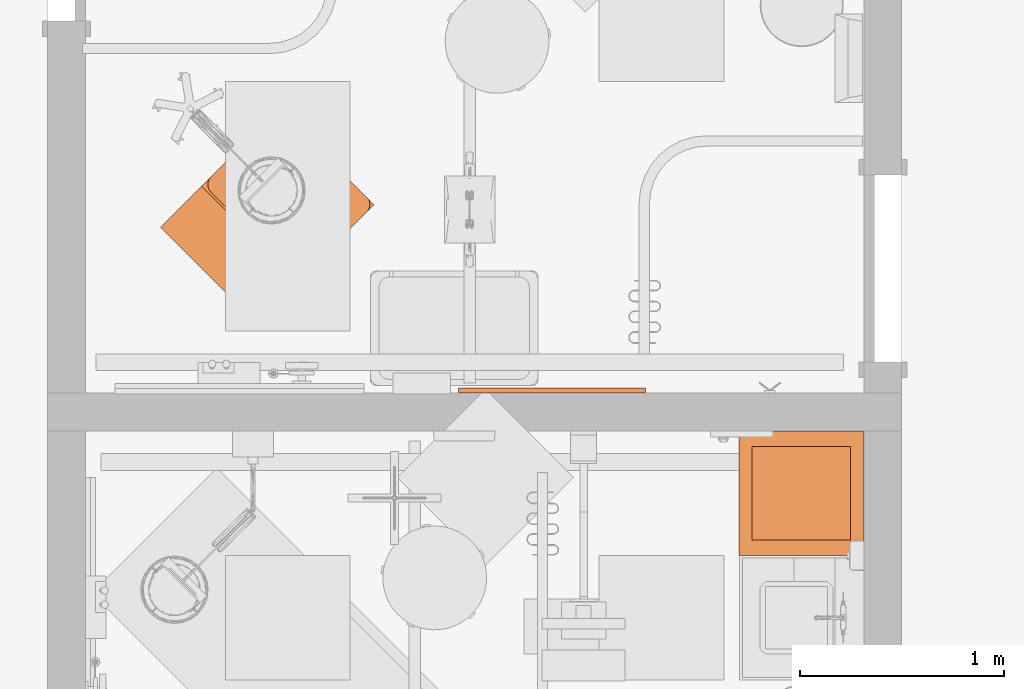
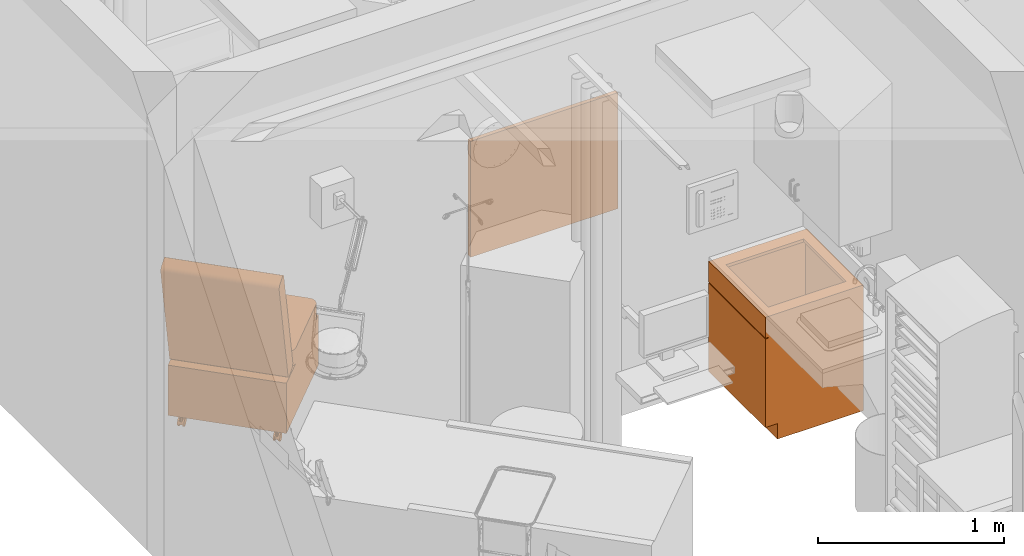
# One storey, part 13 of 142: 3 proxies.
"""IFC2X3 building model written with IfcOpenShell, lengths in feet."""

from ifc_helpers import new_model, entity, si_unit, converted_unit, derived_unit, direction, frame, frame_2d, origin, origin_2d_with_axis, place, context, subcontext, project, spatial, polyline, circle_curve, parameter, trimmed, segment, composite_curve, rectangle, circle, outline, extrude, source, transform, mapped, type_object, type_shapes, element, save


model = new_model("IFC2X3")

# Units and contexts
model_context = context("Model", 3, precision=0.0001, world=origin(), true_north=direction((6.12303176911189e-17, 1.0)))
body_context = subcontext(model_context, "Body", "Model", "MODEL_VIEW")
ifc_project = project(units=[converted_unit("LENGTHUNIT", "FOOT", entity("IfcRatioMeasure", 0.3048), si_unit("LENGTHUNIT", "METRE"), dimensions=[1, 0, 0, 0, 0, 0, 0]), converted_unit("AREAUNIT", "SQUARE FOOT", entity("IfcRatioMeasure", 0.09290304), si_unit("AREAUNIT", "SQUARE_METRE"), dimensions=[2, 0, 0, 0, 0, 0, 0]), converted_unit("VOLUMEUNIT", "CUBIC FOOT", entity("IfcRatioMeasure", 0.028316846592), si_unit("VOLUMEUNIT", "CUBIC_METRE"), dimensions=[3, 0, 0, 0, 0, 0, 0]), converted_unit("PLANEANGLEUNIT", "DEGREE", entity("IfcRatioMeasure", 0.0174532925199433), si_unit("PLANEANGLEUNIT", "RADIAN"), dimensions=[0, 0, 0, 0, 0, 0, 0]), si_unit("MASSUNIT", "GRAM", prefix="KILO"), derived_unit("MASSDENSITYUNIT", [(si_unit("MASSUNIT", "GRAM", prefix="KILO"), 1), (si_unit("LENGTHUNIT", "METRE"), -3)]), si_unit("TIMEUNIT", "SECOND"), si_unit("FREQUENCYUNIT", "HERTZ"), si_unit("THERMODYNAMICTEMPERATUREUNIT", "DEGREE_CELSIUS"), derived_unit("THERMALTRANSMITTANCEUNIT", [(si_unit("MASSUNIT", "GRAM", prefix="KILO"), 1), (si_unit("THERMODYNAMICTEMPERATUREUNIT", "KELVIN"), -1), (si_unit("TIMEUNIT", "SECOND"), -3)]), derived_unit("VOLUMETRICFLOWRATEUNIT", [(si_unit("LENGTHUNIT", "METRE"), 3), (si_unit("TIMEUNIT", "SECOND"), -1)]), si_unit("ELECTRICCURRENTUNIT", "AMPERE"), si_unit("ELECTRICVOLTAGEUNIT", "VOLT"), si_unit("POWERUNIT", "WATT"), si_unit("FORCEUNIT", "NEWTON"), si_unit("ILLUMINANCEUNIT", "LUX"), si_unit("LUMINOUSFLUXUNIT", "LUMEN"), si_unit("LUMINOUSINTENSITYUNIT", "CANDELA"), derived_unit("USERDEFINED", [(si_unit("MASSUNIT", "GRAM", prefix="KILO"), -1), (si_unit("LENGTHUNIT", "METRE"), -2), (si_unit("TIMEUNIT", "SECOND"), 3), (si_unit("LUMINOUSFLUXUNIT", "LUMEN"), 1)]), derived_unit("LINEARVELOCITYUNIT", [(si_unit("LENGTHUNIT", "METRE"), 1), (si_unit("TIMEUNIT", "SECOND"), -1)]), si_unit("PRESSUREUNIT", "PASCAL"), derived_unit("USERDEFINED", [(si_unit("LENGTHUNIT", "METRE"), -2), (si_unit("MASSUNIT", "GRAM", prefix="KILO"), 1), (si_unit("TIMEUNIT", "SECOND"), -2)])], contexts=[model_context])

# Site, building, storey, space
site_placement = place(None, origin())
site = spatial("IfcSite", under=ifc_project, at=site_placement, Name="Default", CompositionType="ELEMENT")
building_placement = place(site_placement, origin())
building = spatial("IfcBuilding", under=site, at=building_placement, Name="OUTPATIENT / PACT CLINIC (Ch. 265)", CompositionType="ELEMENT")
storey_placement = place(building_placement, origin())
storey = spatial("IfcBuildingStorey", under=building, at=storey_placement, Name="LEVEL 1", CompositionType="ELEMENT", Elevation=0.0)
space_1_placement = place(storey_placement, origin())
space_1 = spatial("IfcSpace", under=storey, at=space_1_placement, Name="EXPA01", CompositionType="ELEMENT", InteriorOrExteriorSpace="INTERNAL")

# Proxies
building_element_proxy_type_1 = type_object("IfcBuildingElementProxyType", Name="F3025 - Board, Bulletin, Wood Framed", PredefinedType="NOTDEFINED")
shared_shape_1 = source(origin(), body_context, "Body", "SweptSolid", [
    extrude(rectangle(XDim=0.0416666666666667, YDim=2.74999999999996, at=origin_2d_with_axis()), frame((0.0, -0.020833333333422, 0.124999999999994), z_axis=(0.0, 0.0, 1.0), x_axis=(0.0, 1.0, 0.0)), (0.0, 0.0, 1.0), 2.25000000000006),
    extrude(outline(polyline([(-1.49999999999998, -1.25), (1.49999999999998, -1.25), (1.49999999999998, 1.25), (-1.49999999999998, 1.25), (-1.49999999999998, -1.25)]), holes=[polyline([(-1.37499999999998, -1.125), (-1.37499999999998, 1.12500000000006), (1.37499999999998, 1.12500000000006), (1.37499999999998, -1.125), (-1.37499999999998, -1.125)])]), frame((0.0, -0.0833333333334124, 1.25), z_axis=(0.0, 1.0, 0.0), x_axis=(-1.0, 0.0, 0.0)), (0.0, 0.0, 1.0), 0.0833333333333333),
])
type_shapes(building_element_proxy_type_1, [shared_shape_1])
proxy_1_placement = place(space_1_placement, frame((398.452893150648, -931.441351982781, 4.0), z_axis=(0.0, 0.0, 1.0), x_axis=(-1.0, 0.0, 0.0)))
element("IfcBuildingElementProxy", 1, at=proxy_1_placement, inside=space_1, type_object=building_element_proxy_type_1, Name="F3025 - Board, Bulletin, Wood Framed1:F3025 - Board, Bulletin, Wood Framed", ObjectType="F3025 - Board, Bulletin, Wood Framed", context=body_context, shape_type="MappedRepresentation", body=[
    mapped(shared_shape_1, transform((0.0, 0.0, 0.0), scale=1.0)),
])
building_element_proxy_type_2 = type_object("IfcBuildingElementProxyType", Name="Exam/Treatment Table with Cabinet", PredefinedType="NOTDEFINED")
shared_shape_2 = source(origin(), body_context, "Body", "SweptSolid", [
    extrude(circle(Radius=0.0833333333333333, at=frame_2d((0.0, -1.38777878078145e-16), x_axis=(1.0, 0.0))), frame((-0.843750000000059, 0.432291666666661, 0.0833333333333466), z_axis=(1.0, 0.0, 0.0), x_axis=(0.0, 1.0, 0.0)), (0.0, 0.0, 1.0), 0.0312500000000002),
    extrude(circle(Radius=0.0260416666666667, at=frame_2d((0.0, -5.55111512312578e-17), x_axis=(1.0, 0.0))), frame((-0.87500000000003, 0.463541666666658, 0.0801325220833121), z_axis=(0.0, 0.0, 1.0), x_axis=(-1.0, 0.0, 0.0)), (0.0, 0.0, 1.0), 0.211534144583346),
    extrude(circle(Radius=0.0625, at=frame_2d((0.0, -2.77555756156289e-16), x_axis=(1.0, 0.0))), frame((-0.90625000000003, 0.432291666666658, 0.0833333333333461), z_axis=(1.0, 0.0, 0.0), x_axis=(0.0, -1.0, 0.0)), (0.0, 0.0, 1.0), 0.0625),
    extrude(circle(Radius=0.0833333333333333, at=frame_2d((0.0, -1.38777878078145e-16), x_axis=(1.0, 0.0))), frame((-0.93750000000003, 0.432291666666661, 0.0833333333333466), z_axis=(1.0, 0.0, 0.0), x_axis=(0.0, 1.0, 0.0)), (0.0, 0.0, 1.0), 0.0312500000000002),
    extrude(circle(Radius=0.0833333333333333, at=frame_2d((0.0, -3.7470027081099e-16), x_axis=(1.0, 0.0))), frame((0.81250000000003, 0.432291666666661, 0.083333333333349), z_axis=(1.0, 0.0, 0.0), x_axis=(0.0, 1.0, 0.0)), (0.0, 0.0, 1.0), 0.0312500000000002),
    extrude(circle(Radius=0.0260416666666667, at=frame_2d((0.0, -5.55111512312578e-17), x_axis=(1.0, 0.0))), frame((0.875000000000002, 0.463541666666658, 0.0801325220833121)), (0.0, 0.0, 1.0), 0.211534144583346),
    extrude(circle(Radius=0.0625, at=frame_2d((0.0, -1.11022302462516e-16), x_axis=(1.0, 0.0))), frame((0.843750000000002, 0.432291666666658, 0.0833333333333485), z_axis=(1.0, 0.0, 0.0), x_axis=(0.0, -1.0, 0.0)), (0.0, 0.0, 1.0), 0.0625),
    extrude(circle(Radius=0.0833333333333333, at=frame_2d((0.0, -3.7470027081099e-16), x_axis=(1.0, 0.0))), frame((0.906250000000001, 0.432291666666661, 0.083333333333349), z_axis=(1.0, 0.0, 0.0), x_axis=(0.0, 1.0, 0.0)), (0.0, 0.0, 1.0), 0.0312500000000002),
    extrude(circle(Radius=0.0833333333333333, at=frame_2d((0.0, -1.38777878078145e-16), x_axis=(1.0, 0.0))), frame((-0.843750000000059, -1.41145833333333, 0.0833333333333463), z_axis=(1.0, 0.0, 0.0), x_axis=(0.0, -1.0, 0.0)), (0.0, 0.0, 1.0), 0.0312500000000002),
    extrude(circle(Radius=0.0260416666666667, at=origin_2d_with_axis()), frame((-0.87500000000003, -1.44270833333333, 0.0801325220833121), z_axis=(0.0, 0.0, 1.0), x_axis=(-1.0, 0.0, 0.0)), (0.0, 0.0, 1.0), 0.211534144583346),
    extrude(circle(Radius=0.0625, at=frame_2d((0.0, -2.77555756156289e-16), x_axis=(1.0, 0.0))), frame((-0.90625000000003, -1.41145833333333, 0.0833333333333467), z_axis=(1.0, 0.0, 0.0), x_axis=(0.0, 1.0, 0.0)), (0.0, 0.0, 1.0), 0.0625),
    extrude(circle(Radius=0.0833333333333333, at=frame_2d((0.0, -1.38777878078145e-16), x_axis=(1.0, 0.0))), frame((-0.93750000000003, -1.41145833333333, 0.0833333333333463), z_axis=(1.0, 0.0, 0.0), x_axis=(0.0, -1.0, 0.0)), (0.0, 0.0, 1.0), 0.0312500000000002),
    extrude(circle(Radius=0.0833333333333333, at=frame_2d((0.0, -3.7470027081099e-16), x_axis=(1.0, 0.0))), frame((0.81250000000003, -1.41145833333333, 0.0833333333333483), z_axis=(1.0, 0.0, 0.0), x_axis=(0.0, -1.0, 0.0)), (0.0, 0.0, 1.0), 0.0312500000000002),
    extrude(circle(Radius=0.0260416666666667, at=origin_2d_with_axis()), frame((0.875000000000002, -1.44270833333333, 0.0801325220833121)), (0.0, 0.0, 1.0), 0.211534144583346),
    extrude(circle(Radius=0.0625, at=frame_2d((0.0, -1.11022302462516e-16), x_axis=(1.0, 0.0))), frame((0.843750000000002, -1.41145833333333, 0.0833333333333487), z_axis=(1.0, 0.0, 0.0), x_axis=(0.0, 1.0, 0.0)), (0.0, 0.0, 1.0), 0.0625),
    extrude(circle(Radius=0.0833333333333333, at=frame_2d((0.0, -3.7470027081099e-16), x_axis=(1.0, 0.0))), frame((0.906250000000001, -1.41145833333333, 0.0833333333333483), z_axis=(1.0, 0.0, 0.0), x_axis=(0.0, -1.0, 0.0)), (0.0, 0.0, 1.0), 0.0312500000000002),
    extrude(rectangle(XDim=2.1666666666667, YDim=2.18316882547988, at=origin_2d_with_axis()), frame((0.0, -0.491748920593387, 0.291666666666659), z_axis=(0.0, 0.0, 1.0), x_axis=(-1.0, 0.0, 0.0)), (0.0, 0.0, 1.0), 1.08333333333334),
    extrude(outline(composite_curve([segment(trimmed(circle_curve(frame_2d((-0.221258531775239, -1.14772335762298), x_axis=(1.0, 0.0)), 0.0833333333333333), [parameter(255.0)], [parameter(345.0)], True, "PARAMETER"), True, "CONTINUOUS"), segment(polyline([(-0.140764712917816, -1.16929161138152), (0.462739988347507, 1.08301859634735)]), True, "CONTINUOUS"), segment(trimmed(circle_curve(frame_2d((0.382246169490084, 1.10458685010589), x_axis=(1.0, 0.0)), 0.0833333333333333), [parameter(345.000000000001)], [parameter(75.0000000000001)], True, "PARAMETER"), True, "CONTINUOUS"), segment(polyline([(0.403814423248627, 1.18508066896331), (0.242826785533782, 1.2282171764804)]), True, "CONTINUOUS"), segment(trimmed(circle_curve(frame_2d((0.221258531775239, 1.14772335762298), x_axis=(1.0, 0.0)), 0.0833333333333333), [parameter(74.9999999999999)], [parameter(165.0)], True, "PARAMETER"), True, "CONTINUOUS"), segment(polyline([(0.140764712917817, 1.16929161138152), (-0.462739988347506, -1.08301859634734)]), True, "CONTINUOUS"), segment(trimmed(circle_curve(frame_2d((-0.382246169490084, -1.10458685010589), x_axis=(1.0, 0.0)), 0.0833333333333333), [parameter(165.0)], [parameter(255.0)], True, "PARAMETER"), True, "CONTINUOUS"), segment(polyline([(-0.403814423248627, -1.18508066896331), (-0.242826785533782, -1.2282171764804)]), True, "CONTINUOUS")], self_intersect=False)), frame((-1.08333333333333, 0.632933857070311, 2.62668441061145), z_axis=(1.0, 0.0, 0.0), x_axis=(0.0, 1.0, 0.0)), (0.0, 0.0, 1.0), 2.16666666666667),
    extrude(outline(composite_curve([segment(polyline([(-0.916666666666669, -0.854166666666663), (0.91666666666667, -0.854166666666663)]), True, "CONTINUOUS"), segment(trimmed(circle_curve(frame_2d((0.916666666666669, -0.687499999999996), x_axis=(-1.0, 0.0)), 0.166666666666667), [parameter(90.0000000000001)], [parameter(180.0)], True, "PARAMETER"), True, "CONTINUOUS"), segment(polyline([(1.08333333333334, -0.687499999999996), (1.08333333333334, 0.687499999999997)]), True, "CONTINUOUS"), segment(trimmed(circle_curve(frame_2d((0.916666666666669, 0.687499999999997), x_axis=(-1.0, 0.0)), 0.166666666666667), [parameter(180.0)], [parameter(270.0)], True, "PARAMETER"), True, "CONTINUOUS"), segment(polyline([(0.916666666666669, 0.854166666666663), (-0.91666666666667, 0.854166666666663)]), True, "CONTINUOUS"), segment(trimmed(circle_curve(frame_2d((-0.916666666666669, 0.687499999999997), x_axis=(-1.0, 0.0)), 0.166666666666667), [parameter(270.0)], [parameter(0.0)], True, "PARAMETER"), True, "CONTINUOUS"), segment(polyline([(-1.08333333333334, 0.687499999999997), (-1.08333333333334, -0.687499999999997)]), True, "CONTINUOUS"), segment(trimmed(circle_curve(frame_2d((-0.916666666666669, -0.687499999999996), x_axis=(-1.0, 0.0)), 0.166666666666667), [parameter(0.0)], [parameter(90.0000000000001)], True, "PARAMETER"), True, "CONTINUOUS")], self_intersect=False)), frame((0.0, -0.729166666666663, 1.375), z_axis=(0.0, 0.0, 1.0), x_axis=(-1.0, 0.0, 0.0)), (0.0, 0.0, 1.0), 0.333333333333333),
])
type_shapes(building_element_proxy_type_2, [shared_shape_2])
proxy_2_placement = place(space_1_placement, frame((393.714225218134, -928.768561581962, 0.0260416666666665), z_axis=(0.0, 0.0, 1.0), x_axis=(-0.707106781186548, 0.707106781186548, 0.0)))
element("IfcBuildingElementProxy", 2, at=proxy_2_placement, inside=space_1, type_object=building_element_proxy_type_2, Name="M9025 - Exam Table1:Exam/Treatment Table with Cabinet", ObjectType="Exam/Treatment Table with Cabinet", context=body_context, shape_type="MappedRepresentation", body=[
    mapped(shared_shape_2, transform((0.0, 0.0, 0.0), scale=1.0)),
])

# Space
space_2_placement = place(storey_placement, origin())
space_2 = spatial("IfcSpace", under=storey, at=space_2_placement, Name="TRPR1", CompositionType="ELEMENT", InteriorOrExteriorSpace="INTERNAL")

# Proxy
building_element_proxy_type_3 = type_object("IfcBuildingElementProxyType", Name="C02Q0 - Cabinet, Sink, U-C-B, 1 Door, 36x24x22 LH", PredefinedType="NOTDEFINED")
shared_shape_3 = source(origin(), body_context, "Body", "SweptSolid", [
    extrude(rectangle(XDim=0.0625000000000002, YDim=1.99999999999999, at=frame_2d((-2.22044604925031e-16, -1.11022302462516e-16), x_axis=(1.0, 0.0))), frame((0.0614754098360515, -1.96875, 2.26041666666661), z_axis=(0.0, 0.0, 1.0), x_axis=(0.0, 1.0, 0.0)), (0.0, 0.0, 1.0), 0.447916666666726),
    extrude(rectangle(XDim=0.0625000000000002, YDim=1.99999999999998, at=frame_2d((-2.22044604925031e-16, -1.11022302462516e-16), x_axis=(1.0, 0.0))), frame((0.0614754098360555, -1.96875, 0.333333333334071), z_axis=(0.0, 0.0, 1.0), x_axis=(0.0, 1.0, 0.0)), (0.0, 0.0, 1.0), 1.90624999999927),
    extrude(rectangle(XDim=1.87499999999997, YDim=1.87499999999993, at=frame_2d((0.0, -1.11022302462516e-16), x_axis=(1.0, 0.0))), frame((0.0614754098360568, -1.0, 0.333333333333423), z_axis=(0.0, 0.0, 1.0), x_axis=(-1.0, 0.0, 0.0)), (0.0, 0.0, 1.0), 0.0627188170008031),
    extrude(rectangle(XDim=0.0625, YDim=1.87499999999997, at=origin_2d_with_axis()), frame((0.0614754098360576, -0.03125, 0.333333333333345), z_axis=(0.0, 0.0, 1.0), x_axis=(0.0, 1.0, 0.0)), (0.0, 0.0, 1.0), 2.3125),
    extrude(outline(polyline([(-0.937499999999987, -0.968750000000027), (0.937499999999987, -0.968750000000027), (0.937499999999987, 0.968750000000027), (-0.937499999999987, 0.968750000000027), (-0.937499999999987, -0.968750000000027)]), holes=[polyline([(-0.749999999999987, -0.760416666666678), (-0.749999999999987, 0.822916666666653), (0.75000000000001, 0.822916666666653), (0.75000000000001, -0.760416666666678), (-0.749999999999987, -0.760416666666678)])]), frame((0.0614754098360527, -0.968750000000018, 2.64583333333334), z_axis=(0.0, 0.0, 1.0), x_axis=(-1.0, 0.0, 0.0)), (0.0, 0.0, 1.0), 0.0624999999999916),
    extrude(rectangle(XDim=0.0625000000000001, YDim=1.9375, at=frame_2d((-1.66533453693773e-16, 5.55111512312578e-17), x_axis=(1.0, 0.0))), frame((1.03022540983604, -0.968749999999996, 0.333333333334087)), (0.0, 0.0, 1.0), 2.37499999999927),
    extrude(rectangle(XDim=0.0625000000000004, YDim=1.93750000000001, at=origin_2d_with_axis()), frame((-0.907274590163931, -0.968749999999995, 0.333333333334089)), (0.0, 0.0, 1.0), 2.37499999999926),
    extrude(outline(polyline([(-1.0, -0.875000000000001), (1.0, -0.875000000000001), (1.0, 0.875000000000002), (-1.0, 0.875000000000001), (-1.0, -0.875000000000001)]), holes=[polyline([(-0.9375, -0.812500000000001), (-0.937500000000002, 0.812499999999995), (0.937499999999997, 0.812500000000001), (0.937500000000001, -0.812500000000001), (-0.9375, -0.812500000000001)])]), frame((0.0614754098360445, -0.874999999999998, 0.0)), (0.0, 0.0, 1.0), 0.333333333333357),
])
type_shapes(building_element_proxy_type_3, [shared_shape_3])
proxy_3_placement = place(space_2_placement, frame((403.454751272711, -932.984043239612, 0.0), z_axis=(0.0, 0.0, 1.0), x_axis=(0.0, -1.0, 0.0)))
element("IfcBuildingElementProxy", 3, at=proxy_3_placement, inside=space_2, type_object=building_element_proxy_type_3, Name="C02Q0 - Cabinet, Sink, U-C-B, 1 Door, 36x24x22 LH1:C02Q0 - Cabinet, Sink, U-C-B, 1 Door, 36x24x22 LH", ObjectType="C02Q0 - Cabinet, Sink, U-C-B, 1 Door, 36x24x22 LH", context=body_context, shape_type="MappedRepresentation", body=[
    mapped(shared_shape_3, transform((0.0, 0.0, 0.0), scale=1.0)),
])

save(model, "model.ifc")
